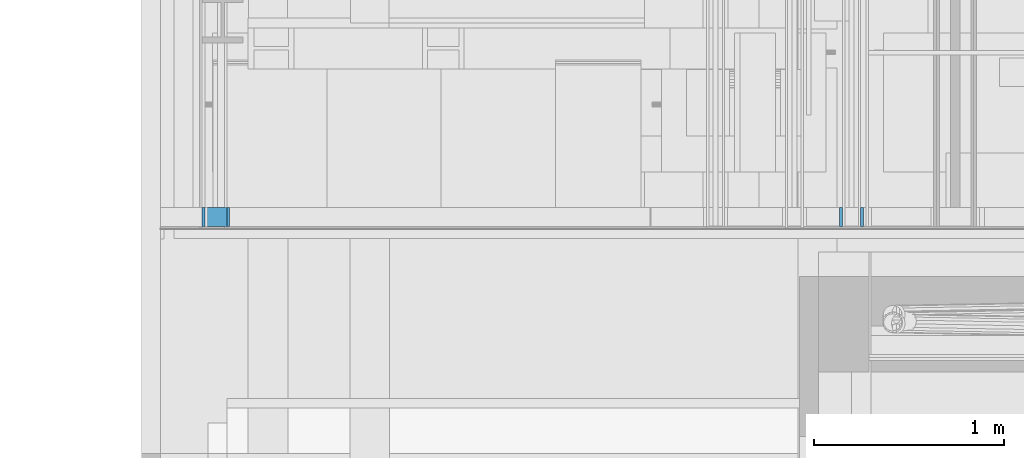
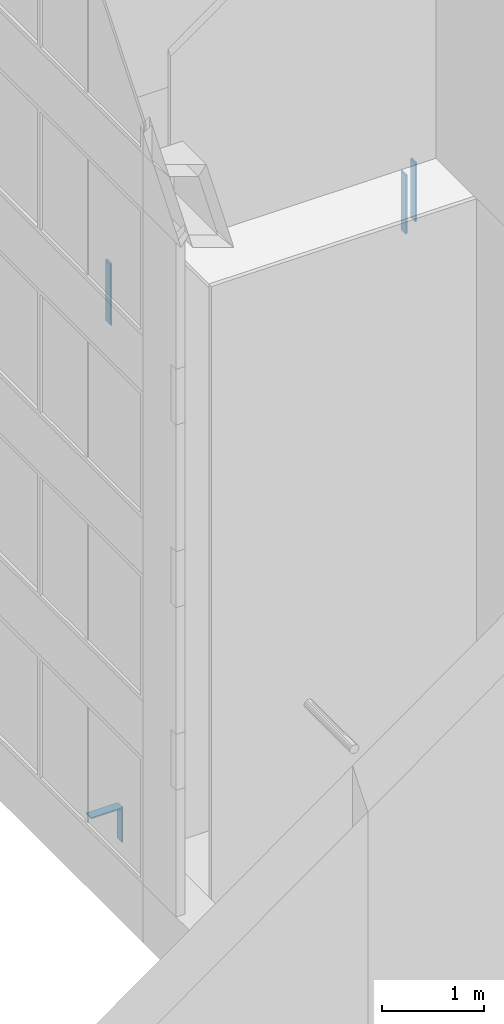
# One storey, part 174 of 583: 5 building element parts, 4 elements without a shape of their own.
"""IFC2X3 building model written with IfcOpenShell, lengths in metres."""

from ifc_helpers import new_model, entity, si_unit, converted_unit, derived_unit, money_unit, direction, frame, frame_2d, origin_with_axes, place, context, subcontext, project, spatial, polyline, rectangle, outline, extrude, material, type_object, element, aggregate, save


model = new_model("IFC2X3")

# Units and contexts
model_context = context("Model", 3, precision=1e-05, world=origin_with_axes(), true_north=direction((0.0, 1.0)))
body_context = subcontext(model_context, "Body", "Model", "MODEL_VIEW", scale=1.0)
ifc_project = project(units=[si_unit("LENGTHUNIT", "METRE"), si_unit("AREAUNIT", "SQUARE_METRE"), si_unit("VOLUMEUNIT", "CUBIC_METRE"), si_unit("ABSORBEDDOSEUNIT", "GRAY"), si_unit("AMOUNTOFSUBSTANCEUNIT", "MOLE"), si_unit("DOSEEQUIVALENTUNIT", "SIEVERT"), si_unit("ELECTRICCAPACITANCEUNIT", "FARAD"), si_unit("ELECTRICCHARGEUNIT", "COULOMB"), si_unit("ELECTRICCONDUCTANCEUNIT", "SIEMENS"), si_unit("ELECTRICCURRENTUNIT", "AMPERE"), si_unit("ELECTRICRESISTANCEUNIT", "OHM"), si_unit("ELECTRICVOLTAGEUNIT", "VOLT"), si_unit("ENERGYUNIT", "JOULE"), si_unit("FORCEUNIT", "NEWTON"), si_unit("FREQUENCYUNIT", "HERTZ"), si_unit("ILLUMINANCEUNIT", "LUX"), si_unit("INDUCTANCEUNIT", "HENRY"), si_unit("LUMINOUSFLUXUNIT", "LUMEN"), si_unit("LUMINOUSINTENSITYUNIT", "CANDELA"), si_unit("MAGNETICFLUXDENSITYUNIT", "TESLA"), si_unit("MAGNETICFLUXUNIT", "WEBER"), si_unit("MASSUNIT", "GRAM"), converted_unit("PLANEANGLEUNIT", "degree", entity("IfcReal", 0.0174532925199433), si_unit("PLANEANGLEUNIT", "RADIAN"), dimensions=[0, 0, 0, 0, 0, 0, 0]), si_unit("POWERUNIT", "WATT"), si_unit("PRESSUREUNIT", "PASCAL"), si_unit("RADIOACTIVITYUNIT", "BECQUEREL"), si_unit("SOLIDANGLEUNIT", "STERADIAN"), si_unit("THERMODYNAMICTEMPERATUREUNIT", "KELVIN"), si_unit("TIMEUNIT", "SECOND"), derived_unit("ACCELERATIONUNIT", [(si_unit("LENGTHUNIT", "METRE"), 1), (si_unit("TIMEUNIT", "SECOND"), -2)]), derived_unit("ANGULARVELOCITYUNIT", [(converted_unit("PLANEANGLEUNIT", "degree", entity("IfcReal", 0.0174532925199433), si_unit("PLANEANGLEUNIT", "RADIAN"), dimensions=[0, 0, 0, 0, 0, 0, 0]), 1), (si_unit("TIMEUNIT", "SECOND"), -1)]), derived_unit("CURVATUREUNIT", [(converted_unit("PLANEANGLEUNIT", "degree", entity("IfcReal", 0.0174532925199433), si_unit("PLANEANGLEUNIT", "RADIAN"), dimensions=[0, 0, 0, 0, 0, 0, 0]), 1), (si_unit("LENGTHUNIT", "METRE"), -1)]), derived_unit("DYNAMICVISCOSITYUNIT", [(si_unit("PRESSUREUNIT", "PASCAL"), 1), (si_unit("TIMEUNIT", "SECOND"), 1)]), derived_unit("HEATFLUXDENSITYUNIT", [(si_unit("POWERUNIT", "WATT"), 1), (si_unit("LENGTHUNIT", "METRE"), -2)]), derived_unit("HEATINGVALUEUNIT", [(si_unit("ENERGYUNIT", "JOULE"), 1), (si_unit("MASSUNIT", "GRAM"), -1)]), derived_unit("INTEGERCOUNTRATEUNIT", [(si_unit("TIMEUNIT", "SECOND"), -1)]), derived_unit("IONCONCENTRATIONUNIT", [(si_unit("MASSUNIT", "GRAM"), 1), (si_unit("VOLUMEUNIT", "CUBIC_METRE"), -1)]), derived_unit("ISOTHERMALMOISTURECAPACITYUNIT", [(si_unit("VOLUMEUNIT", "CUBIC_METRE"), 1), (si_unit("MASSUNIT", "GRAM"), -1)]), derived_unit("KINEMATICVISCOSITYUNIT", [(si_unit("AREAUNIT", "SQUARE_METRE"), 1), (si_unit("TIMEUNIT", "SECOND"), -1)]), derived_unit("LINEARFORCEUNIT", [(si_unit("FORCEUNIT", "NEWTON"), 1), (si_unit("LENGTHUNIT", "METRE"), -1)]), derived_unit("LINEARMOMENTUNIT", [(si_unit("FORCEUNIT", "NEWTON"), 1), (si_unit("LENGTHUNIT", "METRE"), -1)]), derived_unit("LINEARSTIFFNESSUNIT", [(si_unit("FORCEUNIT", "NEWTON"), 1), (si_unit("LENGTHUNIT", "METRE"), -1)]), derived_unit("LINEARVELOCITYUNIT", [(si_unit("LENGTHUNIT", "METRE"), 1), (si_unit("TIMEUNIT", "SECOND"), -1)]), derived_unit("LUMINOUSINTENSITYDISTRIBUTIONUNIT", [(si_unit("LUMINOUSINTENSITYUNIT", "CANDELA"), 1), (si_unit("LUMINOUSFLUXUNIT", "LUMEN"), -1)]), derived_unit("MASSDENSITYUNIT", [(si_unit("MASSUNIT", "GRAM"), 1), (si_unit("VOLUMEUNIT", "CUBIC_METRE"), -1)]), derived_unit("MASSFLOWRATEUNIT", [(si_unit("MASSUNIT", "GRAM"), 1), (si_unit("TIMEUNIT", "SECOND"), -1)]), derived_unit("MASSPERLENGTHUNIT", [(si_unit("MASSUNIT", "GRAM"), 1), (si_unit("LENGTHUNIT", "METRE"), -1)]), derived_unit("MODULUSOFELASTICITYUNIT", [(si_unit("FORCEUNIT", "NEWTON"), 1), (si_unit("AREAUNIT", "SQUARE_METRE"), -1)]), derived_unit("MODULUSOFLINEARSUBGRADEREACTIONUNIT", [(si_unit("FORCEUNIT", "NEWTON"), 1), (si_unit("LENGTHUNIT", "METRE"), -2)]), derived_unit("MODULUSOFROTATIONALSUBGRADEREACTIONUNIT", [(si_unit("FORCEUNIT", "NEWTON"), 1), (si_unit("LENGTHUNIT", "METRE"), 1)]), derived_unit("MODULUSOFSUBGRADEREACTIONUNIT", [(si_unit("FORCEUNIT", "NEWTON"), 1), (si_unit("VOLUMEUNIT", "CUBIC_METRE"), -1)]), derived_unit("MOISTUREDIFFUSIVITYUNIT", [(si_unit("VOLUMEUNIT", "CUBIC_METRE"), 1), (si_unit("TIMEUNIT", "SECOND"), -1)]), derived_unit("MOLECULARWEIGHTUNIT", [(si_unit("MASSUNIT", "GRAM"), 1), (si_unit("AMOUNTOFSUBSTANCEUNIT", "MOLE"), -1)]), derived_unit("PLANARFORCEUNIT", [(si_unit("FORCEUNIT", "NEWTON"), 1), (si_unit("LENGTHUNIT", "METRE"), -2)]), derived_unit("ROTATIONALFREQUENCYUNIT", [(si_unit("TIMEUNIT", "SECOND"), -1)]), derived_unit("ROTATIONALMASSUNIT", [(si_unit("MASSUNIT", "GRAM"), 1), (si_unit("LENGTHUNIT", "METRE"), 2)]), derived_unit("ROTATIONALSTIFFNESSUNIT", [(si_unit("FORCEUNIT", "NEWTON"), 1), (si_unit("LENGTHUNIT", "METRE"), 1), (converted_unit("PLANEANGLEUNIT", "degree", entity("IfcReal", 0.0174532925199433), si_unit("PLANEANGLEUNIT", "RADIAN"), dimensions=[0, 0, 0, 0, 0, 0, 0]), -1)]), derived_unit("SECTIONAREAINTEGRALUNIT", [(si_unit("LENGTHUNIT", "METRE"), 5)]), derived_unit("SECTIONMODULUSUNIT", [(si_unit("LENGTHUNIT", "METRE"), 3)]), derived_unit("SHEARMODULUSUNIT", [(si_unit("FORCEUNIT", "NEWTON"), 1), (si_unit("AREAUNIT", "SQUARE_METRE"), -1)]), derived_unit("SOUNDPOWERUNIT", [(si_unit("ENERGYUNIT", "JOULE"), 1), (si_unit("TIMEUNIT", "SECOND"), -1)]), derived_unit("SPECIFICHEATCAPACITYUNIT", [(si_unit("FORCEUNIT", "NEWTON"), 1), (si_unit("MASSUNIT", "GRAM"), -1), (si_unit("THERMODYNAMICTEMPERATUREUNIT", "KELVIN"), -1)]), derived_unit("TEMPERATUREGRADIENTUNIT", [(si_unit("THERMODYNAMICTEMPERATUREUNIT", "KELVIN"), 1), (si_unit("LENGTHUNIT", "METRE"), -1)]), derived_unit("THERMALADMITTANCEUNIT", [(si_unit("POWERUNIT", "WATT"), 1), (si_unit("AREAUNIT", "SQUARE_METRE"), -1), (si_unit("THERMODYNAMICTEMPERATUREUNIT", "KELVIN"), -1)]), derived_unit("THERMALCONDUCTANCEUNIT", [(si_unit("POWERUNIT", "WATT"), 1), (si_unit("LENGTHUNIT", "METRE"), -1), (si_unit("THERMODYNAMICTEMPERATUREUNIT", "KELVIN"), -1)]), derived_unit("THERMALEXPANSIONCOEFFICIENTUNIT", [(si_unit("THERMODYNAMICTEMPERATUREUNIT", "KELVIN"), -1)]), derived_unit("THERMALRESISTANCEUNIT", [(si_unit("AREAUNIT", "SQUARE_METRE"), 1), (si_unit("POWERUNIT", "WATT"), -1)]), derived_unit("THERMALTRANSMITTANCEUNIT", [(si_unit("POWERUNIT", "WATT"), 1), (si_unit("AREAUNIT", "SQUARE_METRE"), -1), (si_unit("THERMODYNAMICTEMPERATUREUNIT", "KELVIN"), -1)]), derived_unit("TORQUEUNIT", [(si_unit("FORCEUNIT", "NEWTON"), 1), (si_unit("LENGTHUNIT", "METRE"), 1)]), derived_unit("VAPORPERMEABILITYUNIT", [(si_unit("MASSUNIT", "GRAM"), 1), (si_unit("TIMEUNIT", "SECOND"), -1)]), derived_unit("VOLUMETRICFLOWRATEUNIT", [(si_unit("VOLUMEUNIT", "CUBIC_METRE"), 1), (si_unit("TIMEUNIT", "SECOND"), -1)]), derived_unit("WARPINGCONSTANTUNIT", [(si_unit("LENGTHUNIT", "METRE"), 6)]), derived_unit("WARPINGMOMENTUNIT", [(si_unit("FORCEUNIT", "NEWTON"), 1), (si_unit("LENGTHUNIT", "METRE"), 2)]), money_unit("GBP")], contexts=[model_context])

# Site, building, storey
site_placement = place(None, origin_with_axes())
site = spatial("IfcSite", under=ifc_project, at=site_placement, Name="Site", CompositionType="ELEMENT")
building_placement = place(site_placement, origin_with_axes())
building = spatial("IfcBuilding", under=site, at=building_placement, Name="Building01", CompositionType="ELEMENT")
storey_placement = place(building_placement, frame((0.0, 0.0, 20.78), z_axis=(0.0, 0.0, 1.0), x_axis=(1.0, 0.0, 0.0)))
storey = spatial("IfcBuildingStorey", under=building, at=storey_placement, Name="RL", CompositionType="ELEMENT", Elevation=20.78)

# Wall, building element parts
wall_type_1 = type_object("IfcWallType", Name="SHE_A-Walls_Type05a_Partition_95mm_tall", PredefinedType="NOTDEFINED")
wall_1_placement = place(storey_placement, frame((3.72, 5.15, -13.545), z_axis=(0.0, 1.0, 0.0), x_axis=(0.0, 0.0, -1.0)))
wall_1 = element("IfcWall", 1, at=wall_1_placement, inside=storey, type_object=wall_type_1, Name="5A", ObjectType="SHE_A-Walls_Type05a_Partition_95mm_tall")
ifc_material = material(Name="A_BSUK_Walls_Timber")
placement = place(wall_1_placement, origin_with_axes())
building_element_part_1 = element("IfcBuildingElementPart", 2, at=placement, material=ifc_material, Name="2", context=body_context, shape_type="SweptSolid", body=[
    extrude(outline(polyline([(0.75, 0.05), (0.05, 0.05), (0.035, 0.035), (0.735, 0.035), (0.75, 0.05)])), frame((0.0, 0.0, 0.015), z_axis=(0.0, 0.0, 1.0), x_axis=(1.0, 0.0, 0.0)), (0.0, 0.0, 1.0), 0.1),
])
building_element_part_2 = element("IfcBuildingElementPart", 3, at=placement, material=ifc_material, Name="3", context=body_context, shape_type="SweptSolid", body=[
    extrude(outline(polyline([(0.64, -0.06), (-0.06, -0.06), (-0.075, -0.075), (0.625, -0.075), (0.64, -0.06)])), frame((0.0, 0.0, 0.015), z_axis=(0.0, 0.0, 1.0), x_axis=(1.0, 0.0, 0.0)), (0.0, 0.0, 1.0), 0.1),
])
aggregate(wall_1, [building_element_part_1, building_element_part_2])

# Wall, building element part
wall_type_2 = type_object("IfcWallType", Name="SHE_A-Walls_Type06d_ExternalWallInsulation_48mm", PredefinedType="NOTDEFINED")
wall_2_placement = place(storey_placement, frame((0.27, 5.15, -14.193), z_axis=(0.0, 1.0, 0.0), x_axis=(0.0, 0.0, 1.0)))
wall_2 = element("IfcWall", 4, at=wall_2_placement, inside=storey, type_object=wall_type_2, Name="6D", ObjectType="SHE_A-Walls_Type06d_ExternalWallInsulation_48mm")
building_element_part_3_placement = place(wall_2_placement, origin_with_axes())
building_element_part_3 = element("IfcBuildingElementPart", 5, at=building_element_part_3_placement, material=ifc_material, Name="2", context=body_context, shape_type="SweptSolid", body=[
    extrude(outline(polyline([(0.723, 0.063), (-0.027, 0.063), (-0.012, 0.048), (0.708, 0.048), (0.723, 0.063)])), frame((0.0, 0.0, 0.015), z_axis=(0.0, 0.0, 1.0), x_axis=(1.0, 0.0, 0.0)), (0.0, 0.0, 1.0), 0.1),
])
aggregate(wall_2, [building_element_part_3])

wall_3_placement = place(storey_placement, frame((0.4, 5.15, -20.474), z_axis=(0.0, 1.0, 0.0), x_axis=(0.0, 0.0, 1.0)))
wall_3 = element("IfcWall", 6, at=wall_3_placement, inside=storey, type_object=wall_type_2, Name="6D", ObjectType="SHE_A-Walls_Type06d_ExternalWallInsulation_48mm")
building_element_part_4_placement = place(wall_3_placement, origin_with_axes())
building_element_part_4 = element("IfcBuildingElementPart", 7, at=building_element_part_4_placement, material=ifc_material, Name="2", context=body_context, shape_type="SweptSolid", body=[
    extrude(rectangle(XDim=0.407, YDim=0.015, at=frame_2d((0.2155, 0.0555), x_axis=(-1.0, 0.0))), frame((0.0, 0.0, 0.015), z_axis=(0.0, 0.0, 1.0), x_axis=(1.0, 0.0, 0.0)), (0.0, 0.0, 1.0), 0.1),
])
aggregate(wall_3, [building_element_part_4])

wall_4_placement = place(storey_placement, frame((0.436, 5.15, -20.103), z_axis=(0.0, 1.0, 0.0), x_axis=(-1.0, 0.0, 0.0)))
wall_4 = element("IfcWall", 8, at=wall_4_placement, inside=storey, type_object=wall_type_2, Name="6D", ObjectType="SHE_A-Walls_Type06d_ExternalWallInsulation_48mm")
building_element_part_5_placement = place(wall_4_placement, origin_with_axes())
building_element_part_5 = element("IfcBuildingElementPart", 9, at=building_element_part_5_placement, material=ifc_material, Name="2", context=body_context, shape_type="SweptSolid", body=[
    extrude(rectangle(XDim=0.015, YDim=0.363, at=frame_2d((0.1545, 0.0555), x_axis=(0.0, -1.0))), frame((0.0, 0.0, 0.015), z_axis=(0.0, 0.0, 1.0), x_axis=(1.0, 0.0, 0.0)), (0.0, 0.0, 1.0), 0.1),
])
aggregate(wall_4, [building_element_part_5])

save(model, "model.ifc")
